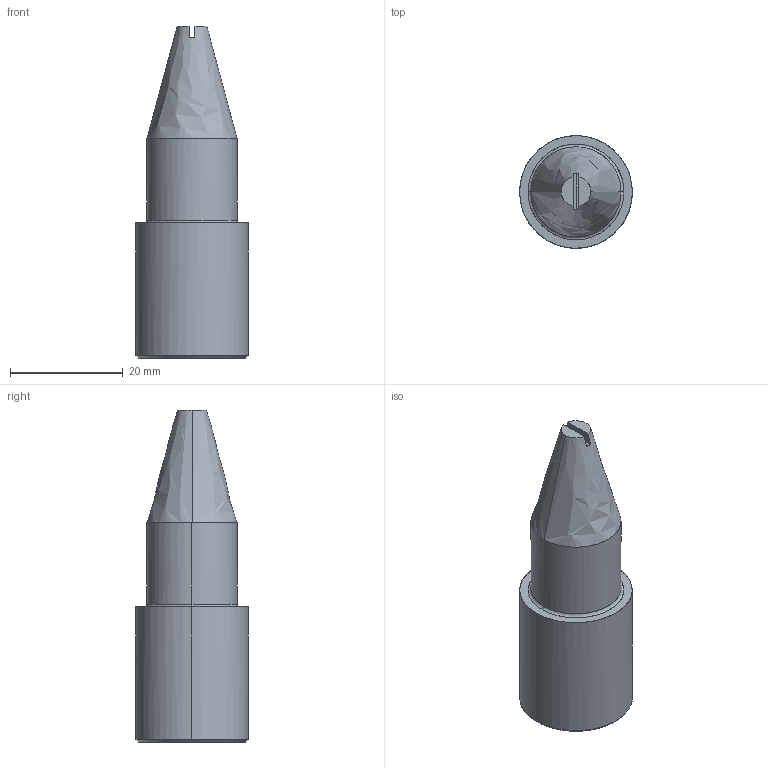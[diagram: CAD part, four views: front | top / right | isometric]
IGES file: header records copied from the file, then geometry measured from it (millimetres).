
Global section: file name: E:\UnigraphicsGraphicData\MISUMI_PRESS-PARTS\IGES\3d_sdst20_03100_r00.igs; native system: NX V5.0; preprocessor: UGS NX IGES V5.0; author: MISUMI; date: 20110105.162517; units: millimetre
Bounding box: 20 x 20 x 59 mm (x, y, z)
Surface area: 4299.8 mm2 (no closed solid volume)
Topology: 0 solids, 0 shells, 21 faces, 124 edges, 124 vertices
Faces by surface type: bspline 21
